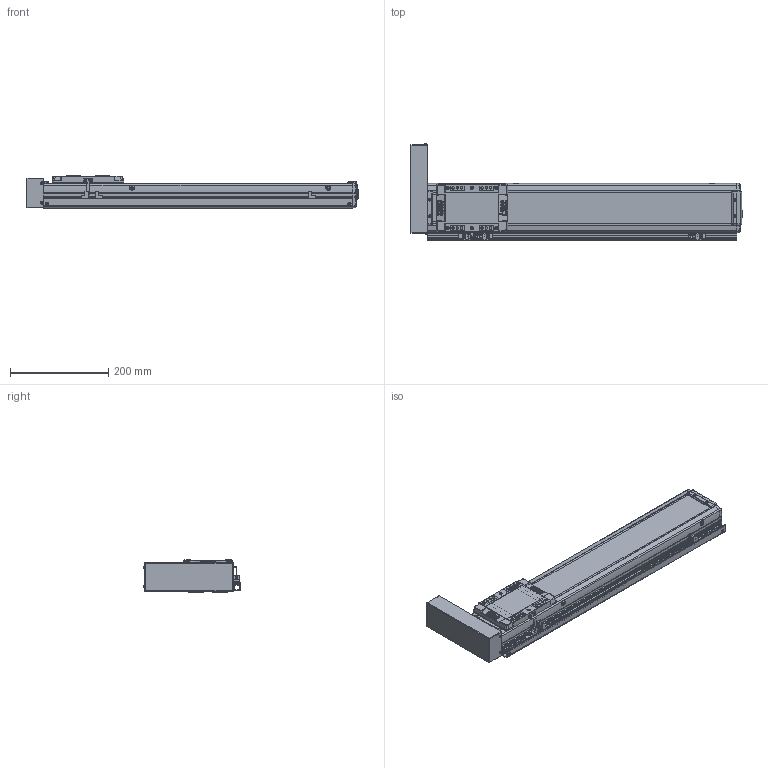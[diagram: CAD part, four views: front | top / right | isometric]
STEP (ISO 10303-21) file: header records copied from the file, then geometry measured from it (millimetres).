
FILE_DESCRIPTION(('STEP AP214'),'1');
FILE_NAME('Z:/Web/3D/SAN100/SAN100 양산용 (STEP)/SAN100ㅁㅁ-450PL+3SR.stp','2013-04-26T00:36:11',(' '),(' '),'Spatial InterOp 3D',' ',' ');
FILE_SCHEMA(('automotive_design'));
Length unit declared in the file: millimetre
Products named in the file (49): EE-SX674; SBK-SX674-352; 스크루 : Round - M3.0 x 6.0; M3.0 x 6.0; SRL-16x17-380L; SGD-SAN100; BTCV-SAN65; BHCS M3 X 6L; SUS COVER; SFX-SAN100; RRCV-SAN100; 스크루 : Round - M4.0 x 10.0; FRBL-SAN100; SLBL-SAN100; SLCV-SAN100; 스크루 : Countersunk - M3.0 x 6.0; BASE; 스크루 : Round - M5.0 x 6.0
Bounding box: 676.5 x 197.06 x 66 mm (x, y, z)
Volume: 2225049.2 mm3; surface area: 571909.8 mm2
Topology: 49 solids, 50 shells, 2369 faces, 6172 edges, 3997 vertices
Faces by surface type: plane 1282, cylinder 799, cone 190, sphere 64, torus 18, bspline 16
Entity records: 93348 total; most frequent: CARTESIAN_POINT 13865, DIRECTION 12979, ORIENTED_EDGE 12172, EDGE_CURVE 6086, AXIS2_PLACEMENT_3D 4580, VERTEX_POINT 3997, LINE 3819, VECTOR 3819
